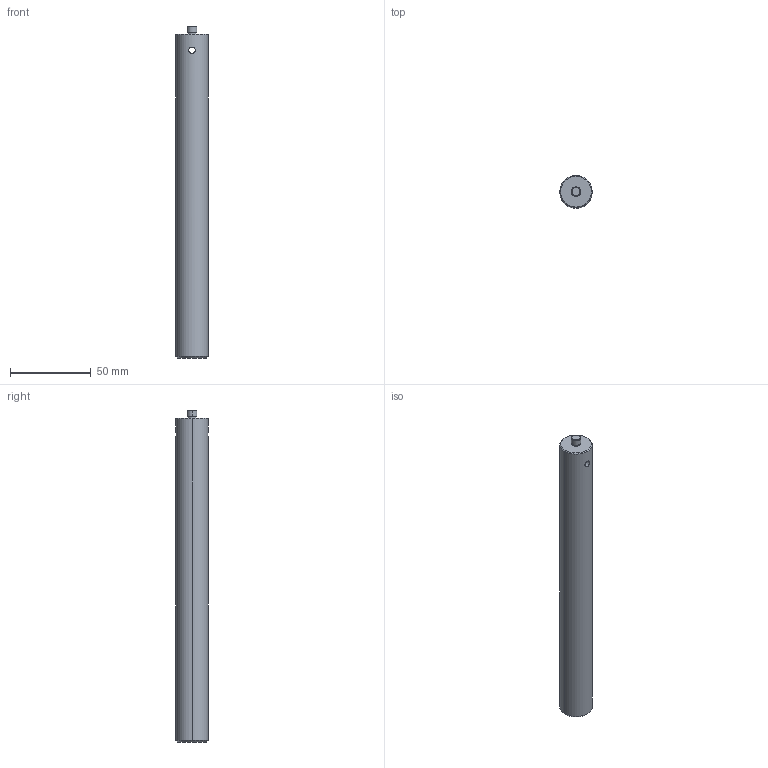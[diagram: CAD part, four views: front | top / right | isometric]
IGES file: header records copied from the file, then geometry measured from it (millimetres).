
Global section: file name: No Iges File Name specified; native system: AutoDesk Inventor R11.0; preprocessor: AutoDesk Inventor Iges Exporter R11.0; author: No Author specified; organization: No Organization specified; date: 20071024.163214; units: millimetre
Bounding box: 20 x 20 x 205 mm (x, y, z)
Volume: 62672.5 mm3; surface area: 13463.3 mm2
Topology: 1 solids, 1 shells, 18 faces, 38 edges, 24 vertices
Faces by surface type: cylinder 6, cone 6, plane 4, revolution 2
